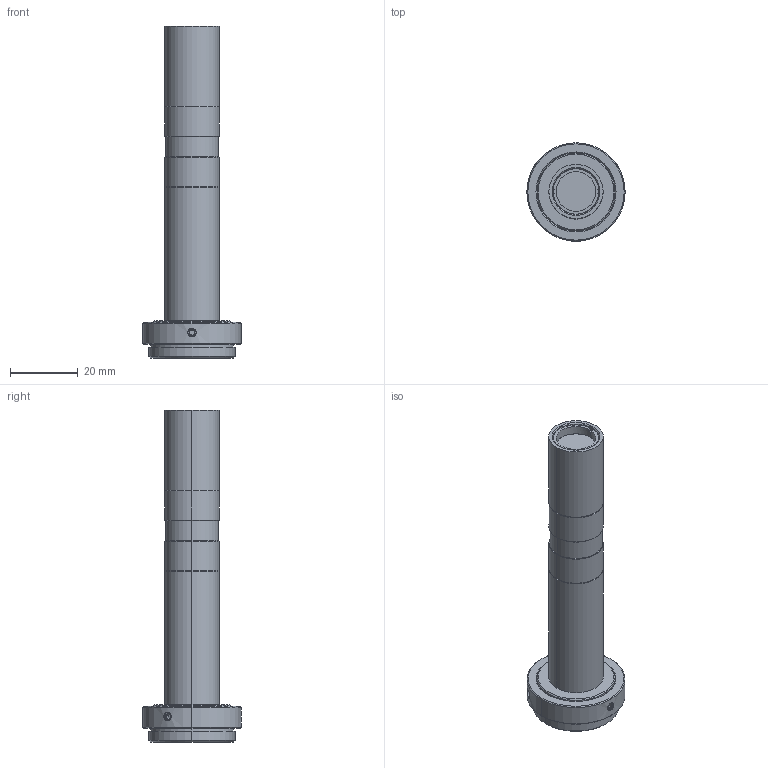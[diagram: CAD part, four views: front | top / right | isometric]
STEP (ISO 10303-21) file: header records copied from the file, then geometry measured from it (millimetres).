
FILE_DESCRIPTION (( 'STEP AP203' ), '1' );
FILE_NAME ('MML3-ST110S_A03938A0100101A-001.STEP', '2013-12-10T02:09:52', ( 'SCHOTT' ), ( 'SCHOTT' ), 'SwSTEP 2.0', 'SolidWorks 2011', '' );
FILE_SCHEMA (( 'CONFIG_CONTROL_DESIGN' ));
Length unit declared in the file: millimetre
Products named in the file (1): MML3-ST110S_A03938A0100101A-001
Bounding box: 29 x 29 x 97.9 mm (x, y, z)
Volume: 16150.9 mm3; surface area: 8942.7 mm2
Topology: 1 solids, 1 shells, 167 faces, 403 edges, 257 vertices
Faces by surface type: plane 63, cone 61, cylinder 43
Entity records: 5147 total; most frequent: CARTESIAN_POINT 1095, DIRECTION 864, ORIENTED_EDGE 806, EDGE_CURVE 403, AXIS2_PLACEMENT_3D 332, VERTEX_POINT 257, LINE 200, VECTOR 200
